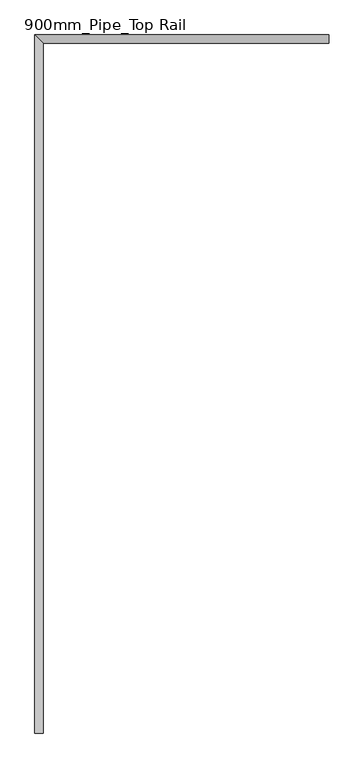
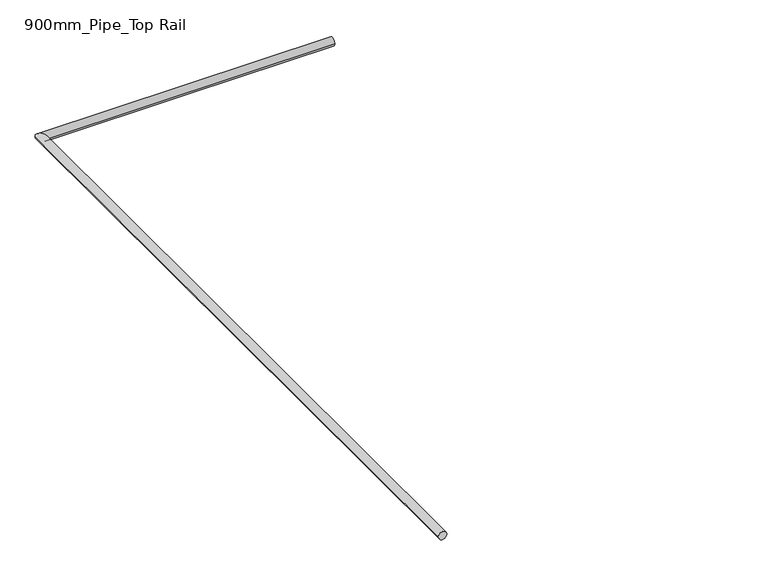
"""IFC4 building model written with IfcOpenShell, lengths in millimetres: railing geometry, 900mm_Pipe_Top Rail."""

import ifcopenshell
import ifcopenshell.guid

model = None  # the IFC model being written
_history = None  # IfcOwnerHistory: only IFC2X3 demands one
_inside = {}  # id of a spatial element -> (the spatial element, [elements in it])
_under = {}  # id of a project, library or spatial element -> (it, [spatial elements below it])
_declared = {}  # id of a project -> (the project, [libraries it declares])
_typed = {}  # id of a type object -> (the type object, [elements of that type])
_made_of = {}  # id of a material, layer set ... -> (it, [elements and type objects made of it])


def new_model(schema):
    """Start an empty IFC model of exactly this schema.

    Asked for "IFC4X3", IfcOpenShell would pick the latest addendum, in which some entities
    have other attributes; the version numbers below select the first issue.
    IFC2X3 requires an IfcOwnerHistory on every rooted entity: one is made here for all.
    """
    global model, _history
    if schema == "IFC4X3":
        model = ifcopenshell.file(schema_version=(4, 3, 0, 0))
    else:
        model = ifcopenshell.file(schema=schema)
    _inside.clear()
    _under.clear()
    _declared.clear()
    _typed.clear()
    _made_of.clear()
    _history = None
    if model.schema == "IFC2X3":
        org = make("IfcOrganization", Name="unknown")
        user = make(
            "IfcPersonAndOrganization",
            ThePerson=make("IfcPerson", FamilyName="unknown"),
            TheOrganization=org,
        )
        app = make(
            "IfcApplication",
            ApplicationDeveloper=org,
            Version="unknown",
            ApplicationFullName="unknown",
            ApplicationIdentifier="unknown",
        )
        _history = make(
            "IfcOwnerHistory",
            OwningUser=user,
            OwningApplication=app,
            ChangeAction="ADDED",
            CreationDate=0,
        )
    return model


def make(cls, **values):
    """One entity of the class cls with the attributes given. An attribute that is None is left unset."""
    return model.create_entity(
        cls, **{name: value for name, value in values.items() if value is not None}
    )


def rooted(cls, **values):
    """An entity with a GlobalId (a new one), such as an element, a storey or a relation."""
    return make(cls, GlobalId=ifcopenshell.guid.new(), OwnerHistory=_history, **values)


def si_unit(unit_type, name, prefix=None):
    """IfcSIUnit, for example si_unit("LENGTHUNIT", "METRE", prefix="MILLI")."""
    return make("IfcSIUnit", UnitType=unit_type, Prefix=prefix, Name=name)


def assignment(units):
    """IfcUnitAssignment: the units of a project."""
    return None if units is None else make("IfcUnitAssignment", Units=units)


def point(xyz):
    """IfcCartesianPoint."""
    return None if xyz is None else make("IfcCartesianPoint", Coordinates=xyz)


def direction(xyz):
    """IfcDirection."""
    return None if xyz is None else make("IfcDirection", DirectionRatios=xyz)


def frame(location, z_axis=None, x_axis=None):
    """IfcAxis2Placement3D, a coordinate frame: its origin and axes. An axis left out is left unset."""
    return make(
        "IfcAxis2Placement3D",
        Location=point(location),
        Axis=direction(z_axis),
        RefDirection=direction(x_axis),
    )


def origin():
    """The frame at (0, 0, 0) with its axes left unset."""
    return frame((0.0, 0.0, 0.0))


def place(relative_to, where):
    """IfcLocalPlacement: puts the frame where relative to a parent placement (None: the world)."""
    return make(
        "IfcLocalPlacement", PlacementRelTo=relative_to, RelativePlacement=where
    )


def context(
    kind, dimensions, precision=None, world=None, true_north=None, identifier=None
):
    """IfcGeometricRepresentationContext, for example the 3D "Model" context."""
    return make(
        "IfcGeometricRepresentationContext",
        ContextIdentifier=identifier,
        ContextType=kind,
        CoordinateSpaceDimension=dimensions,
        Precision=precision,
        WorldCoordinateSystem=world,
        TrueNorth=true_north,
    )


def project(units=None, contexts=None):
    """IfcProject with its units and contexts."""
    return rooted(
        "IfcProject",
        Name="project",
        RepresentationContexts=contexts,
        UnitsInContext=assignment(units),
    )


def spatial(cls, under=None, at=None, **own):
    """A site, building, storey or space (cls), placed at a placement, below another one or the project."""
    s = rooted(cls, ObjectPlacement=at, **own)
    if under is not None:
        _under.setdefault(under.id(), (under, []))[1].append(s)
    return s


def circle_curve(where, radius):
    """IfcCircle in the frame where."""
    return make("IfcCircle", Position=where, Radius=radius)


def ellipse_curve(where, semi_axis1, semi_axis2):
    """IfcEllipse in the frame where."""
    return make(
        "IfcEllipse", Position=where, SemiAxis1=semi_axis1, SemiAxis2=semi_axis2
    )


def shape(context_of_items, identifier, shape_type, items):
    """IfcShapeRepresentation: the items that make up one representation, for example the "Body"."""
    return make(
        "IfcShapeRepresentation",
        ContextOfItems=context_of_items,
        RepresentationIdentifier=identifier,
        RepresentationType=shape_type,
        Items=items,
    )


def source(mapping_origin, context_of_items, identifier, shape_type, items):
    """IfcRepresentationMap: a shape defined once, which mapped items show again and again."""
    return make(
        "IfcRepresentationMap",
        MappingOrigin=mapping_origin,
        MappedRepresentation=shape(context_of_items, identifier, shape_type, items),
    )


def transform(
    local_origin,
    x_axis=None,
    y_axis=None,
    z_axis=None,
    scale=None,
    scale2=None,
    scale3=None,
    uniform=True,
):
    """IfcCartesianTransformationOperator3D, or its non-uniform kind. x_axis, y_axis, z_axis: its Axis1, 2, 3."""
    if uniform:
        return make(
            "IfcCartesianTransformationOperator3D",
            Axis1=direction(x_axis),
            Axis2=direction(y_axis),
            LocalOrigin=point(local_origin),
            Scale=scale,
            Axis3=direction(z_axis),
        )
    return make(
        "IfcCartesianTransformationOperator3DnonUniform",
        Axis1=direction(x_axis),
        Axis2=direction(y_axis),
        LocalOrigin=point(local_origin),
        Scale=scale,
        Axis3=direction(z_axis),
        Scale2=scale2,
        Scale3=scale3,
    )


def mapped(mapping_source, mapping_target):
    """IfcMappedItem: shows the shape of a source again, moved by a transform."""
    return make(
        "IfcMappedItem", MappingSource=mapping_source, MappingTarget=mapping_target
    )


def made_of(thing, what):
    """Note that an element or type object is made of a material, layer set ...; save() writes the relation."""
    if what is not None:
        _made_of.setdefault(what.id(), (what, []))[1].append(thing)
    return thing


def element(
    cls,
    number,
    at=None,
    inside=None,
    cuts=None,
    type_object=None,
    material=None,
    context=None,
    identifier="Body",
    shape_type=None,
    held_by="IfcProductDefinitionShape",
    body=None,
    shapes=None,
    **own,
):
    """One element of the class cls, such as IfcWall. Its Tag is "e" and its number.

    at: its placement. inside: the storey or other place that contains it. cuts: it is an
    opening in that element (IfcRelVoidsElement). A single representation is given by context,
    identifier, shape_type and body (its items); several are given by shapes. held_by: the class
    of the entity that holds the representations. save() writes the other relations.
    """
    e = rooted(cls, Tag="e%d" % number, ObjectPlacement=at, **own)
    if body is not None:
        shapes = [shape(context, identifier, shape_type, body)]
    if shapes is not None:
        e.Representation = make(held_by, Representations=shapes)
    if inside is not None:
        _inside.setdefault(inside.id(), (inside, []))[1].append(e)
    if cuts is not None:
        rooted(
            "IfcRelVoidsElement", RelatingBuildingElement=cuts, RelatedOpeningElement=e
        )
    if type_object is not None:
        _typed.setdefault(type_object.id(), (type_object, []))[1].append(e)
    return made_of(e, material)


def aggregate(whole, parts):
    """IfcRelAggregates: a whole, such as a stair, and the parts it consists of."""
    return rooted("IfcRelAggregates", RelatingObject=whole, RelatedObjects=parts)


def save(model, path):
    """Write the relations noted so far, then the file.

    IfcRelAggregates (storeys below a building ...), IfcRelContainedInSpatialStructure (elements
    in a storey), IfcRelDefinesByType, IfcRelAssociatesMaterial and IfcRelDeclares: one each for
    every whole, place, type object, material and project.
    """
    for whole, parts in _under.values():
        aggregate(whole, parts)
    for where, things in _inside.values():
        rooted(
            "IfcRelContainedInSpatialStructure",
            RelatedElements=things,
            RelatingStructure=where,
        )
    for kind, things in _typed.values():
        rooted("IfcRelDefinesByType", RelatedObjects=things, RelatingType=kind)
    for what, things in _made_of.values():
        rooted("IfcRelAssociatesMaterial", RelatedObjects=things, RelatingMaterial=what)
    for by, libraries in _declared.values():
        rooted("IfcRelDeclares", RelatingContext=by, RelatedDefinitions=libraries)
    model.write(path)


def plane_surface(at):
    """IfcPlane: the flat surface through the origin of the frame at, square to its z axis."""
    return make("IfcPlane", Position=at)


def cylinder_surface(at, radius):
    """IfcCylindricalSurface: all points at the distance radius from the z axis of the frame at."""
    return make("IfcCylindricalSurface", Position=at, Radius=radius)


def advanced_brep(points, edges, surfaces, faces):
    """IfcAdvancedBrep: a solid bounded by faces that lie on surfaces and meet in shared edges.

    An edge is (start, end): straight between two places in points (the first is 0);
    or (start, end, curve); or (start, end, curve, False) where it runs against its curve.
    A face is (place in surfaces, loops), or (place, loops, False) where it looks against
    its surface's normal. A loop lists edges by number (the first is 1), with a minus sign
    where the edge is run from its end to its start. The first loop is the outer one.
    """
    corners = [point(p) for p in points]
    vertices = [make("IfcVertexPoint", VertexGeometry=c) for c in corners]
    made = []
    for start, end, *more in edges:
        made.append(
            make(
                "IfcEdgeCurve",
                EdgeStart=vertices[start],
                EdgeEnd=vertices[end],
                EdgeGeometry=more[0] if more else make("IfcPolyline", Points=[corners[start], corners[end]]),
                SameSense=more[1] if len(more) > 1 else True,
            )
        )
    hull = []
    for where, loops, *sense in faces:
        bounds = []
        for j, loop in enumerate(loops):
            ring = [make("IfcOrientedEdge", EdgeElement=made[abs(k) - 1], Orientation=k > 0) for k in loop]
            bounds.append(
                make(
                    "IfcFaceOuterBound" if j == 0 else "IfcFaceBound",
                    Bound=make("IfcEdgeLoop", EdgeList=ring),
                    Orientation=True,
                )
            )
        hull.append(make("IfcAdvancedFace", Bounds=bounds, FaceSurface=surfaces[where], SameSense=sense[0] if sense else True))
    return make("IfcAdvancedBrep", Outer=make("IfcClosedShell", CfsFaces=hull))


def railing_900mm_pipe_top_rail_20590dda(model_context):
    return source(origin(), model_context, "Body", "AdvancedBrep", [
        advanced_brep(
        [(-12140.3216429, -3435.1039323, 4895.1428571), (-12180.3216429, -3435.1039323, 4895.1428571), (-12140.3216429, -180.1012772, 4895.1428571), (-12180.3216429, -140.1012772, 4895.1428571), (-10790.2146087, -180.1012772, 4895.1428571), (-10790.2146087, -140.1012772, 4895.1428571)],
        [
            (0, 1, circle_curve(frame((-12160.3216429, -3435.1039323, 4895.1428571), z_axis=(0.0, -1.0, 0.0), x_axis=(-1.0, 0.0, 0.0)), 20.0)),
            (1, 0, circle_curve(frame((-12160.3216429, -3435.1039323, 4895.1428571), z_axis=(0.0, -1.0, 0.0), x_axis=(-1.0, 0.0, 0.0)), 20.0)),
            (0, 2),
            (2, 3, ellipse_curve(frame((-12160.3216429, -160.1012772, 4895.1428571), z_axis=(-0.7071067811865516, -0.7071067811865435, 0.0), x_axis=(0.7071067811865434, -0.7071067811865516, 0.0)), 28.2842712, 20.0)),
            (3, 1),
            (3, 2, ellipse_curve(frame((-12160.3216429, -160.1012772, 4895.1428571), z_axis=(-0.7071067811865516, -0.7071067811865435, 0.0), x_axis=(0.7071067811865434, -0.7071067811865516, 0.0)), 28.2842712, 20.0)),
            (4, 5, circle_curve(frame((-10790.2146087, -160.1012772, 4895.1428571), z_axis=(1.0, 0.0, 0.0), x_axis=(0.0, 1.0, 0.0)), 20.0)),
            (5, 4, circle_curve(frame((-10790.2146087, -160.1012772, 4895.1428571), z_axis=(1.0, 0.0, 0.0), x_axis=(0.0, 1.0, 0.0)), 20.0)),
            (2, 4),
            (5, 3),
        ],
        [
            plane_surface(frame((-12160.3216429, -3435.1039323, 4915.1428571), z_axis=(0.0, -1.0, 0.0), x_axis=(0.0, 0.0, 1.0))),
            cylinder_surface(frame((-12160.3216429, -3435.1039323, 4895.1428571), z_axis=(0.0, -1.0, 0.0), x_axis=(-1.0, 0.0, 0.0)), 20.0),
            plane_surface(frame((-10790.2146087, -160.1012772, 4915.1428571), z_axis=(1.0, 0.0, 0.0), x_axis=(0.0, 1.0, 0.0))),
            cylinder_surface(frame((-12160.3216429, -160.1012772, 4895.1428571), z_axis=(-1.0, 0.0, 0.0), x_axis=(0.0, 1.0, 0.0)), 20.0),
        ],
        [
            (0, [[1, 2]]),
            (1, [[-1, 3, 4, 5]]),
            (1, [[-2, -5, 6, -3]]),
            (2, [[7, 8]]),
            (3, [[-4, 9, -8, 10]]),
            (3, [[-6, -10, -7, -9]]),
        ],
    ),
    ])


if __name__ == "__main__":
    model = new_model("IFC4")
    model_context = context("Model", 3, world=origin())
    ifc_project = project(units=[si_unit("LENGTHUNIT", "METRE", prefix="MILLI")], contexts=[model_context])
    site = spatial("IfcSite", under=ifc_project)
    building = spatial("IfcBuilding", under=site)
    placement = place(None, origin())
    railing_900mm_pipe_top_rail_shape = railing_900mm_pipe_top_rail_20590dda(model_context)
    element("IfcRailing", 1, ObjectType="900mm_Pipe_Top Rail", at=placement, inside=building, context=model_context, shape_type="MappedRepresentation", body=[
        mapped(railing_900mm_pipe_top_rail_shape, transform((0.0, 0.0, 0.0), x_axis=(1.0, 0.0, 0.0), y_axis=(0.0, 1.0, 0.0), z_axis=(0.0, 0.0, 1.0))),
    ])
    save(model, "model.ifc")
